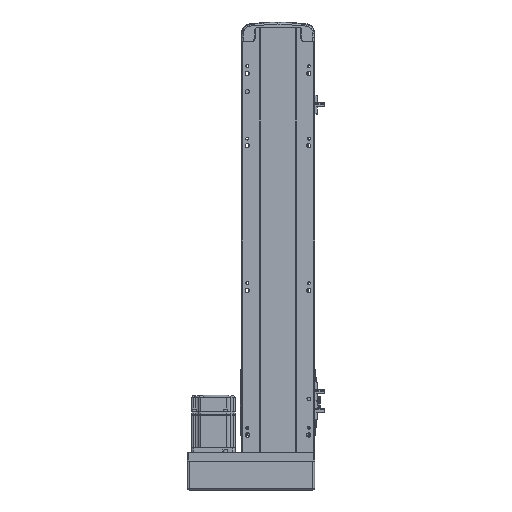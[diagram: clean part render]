
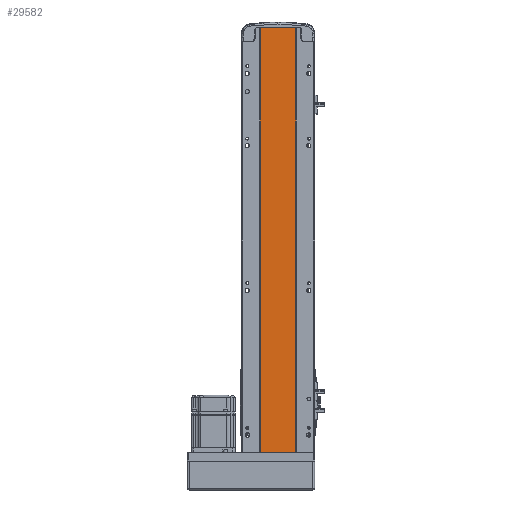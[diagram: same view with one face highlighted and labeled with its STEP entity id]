
A CAD part, front view. The second image highlights one B-rep face of the part: STEP entity #29582.
In plain terms, the highlighted planar face has unit normal (0, -1, 0).
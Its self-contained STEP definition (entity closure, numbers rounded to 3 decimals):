
#1668 = DIRECTION ( 'NONE',  ( 0., 0., -1. ) ) ;
#2954 = VECTOR ( 'NONE', #44532, 1000. ) ;
#3212 = FACE_OUTER_BOUND ( 'NONE', #15431, .T. ) ;
#4189 = CARTESIAN_POINT ( 'NONE',  ( 24.5, 2., 0. ) ) ;
#4845 = CARTESIAN_POINT ( 'NONE',  ( 24.5, 2., 587. ) ) ;
#7236 = DIRECTION ( 'NONE',  ( 0., 0., -1. ) ) ;
#7927 = ORIENTED_EDGE ( 'NONE', *, *, #57987, .T. ) ;
#9044 = VECTOR ( 'NONE', #7236, 1000. ) ;
#11682 = VECTOR ( 'NONE', #1668, 1000. ) ;
#12284 = VECTOR ( 'NONE', #45121, 1000. ) ;
#12891 = VERTEX_POINT ( 'NONE', #23062 ) ;
#13830 = VERTEX_POINT ( 'NONE', #55513 ) ;
#15077 = CARTESIAN_POINT ( 'NONE',  ( -24.5, 2., 587. ) ) ;
#15431 = EDGE_LOOP ( 'NONE', ( #35030, #28832, #58796, #7927 ) ) ;
#18899 = EDGE_CURVE ( 'NONE', #55906, #13830, #47227, .T. ) ;
#19470 = CARTESIAN_POINT ( 'NONE',  ( 0., 2., 587. ) ) ;
#19778 = EDGE_CURVE ( 'NONE', #12891, #29212, #50786, .T. ) ;
#21589 = EDGE_CURVE ( 'NONE', #13830, #29212, #23802, .T. ) ;
#23062 = CARTESIAN_POINT ( 'NONE',  ( -24.5, 2., 0. ) ) ;
#23802 = LINE ( 'NONE', #4845, #11682 ) ;
#27179 = CARTESIAN_POINT ( 'NONE',  ( -24.5, 2., 587. ) ) ;
#28832 = ORIENTED_EDGE ( 'NONE', *, *, #21589, .F. ) ;
#29212 = VERTEX_POINT ( 'NONE', #4189 ) ;
#29582 = ADVANCED_FACE ( 'NONE', ( #3212 ), #41826, .F. ) ;
#32695 = DIRECTION ( 'NONE',  ( 0., 1., 0. ) ) ;
#35030 = ORIENTED_EDGE ( 'NONE', *, *, #19778, .T. ) ;
#39699 = LINE ( 'NONE', #57334, #9044 ) ;
#41123 = AXIS2_PLACEMENT_3D ( 'NONE', #19470, #32695, #41633 ) ;
#41633 = DIRECTION ( 'NONE',  ( 0., 0., 1. ) ) ;
#41826 = PLANE ( 'NONE',  #41123 ) ;
#44328 = CARTESIAN_POINT ( 'NONE',  ( 0., 2., 0. ) ) ;
#44532 = DIRECTION ( 'NONE',  ( 1., 0., 0. ) ) ;
#45121 = DIRECTION ( 'NONE',  ( 1., 0., 0. ) ) ;
#47227 = LINE ( 'NONE', #27179, #12284 ) ;
#50786 = LINE ( 'NONE', #44328, #2954 ) ;
#55513 = CARTESIAN_POINT ( 'NONE',  ( 24.5, 2., 587. ) ) ;
#55906 = VERTEX_POINT ( 'NONE', #15077 ) ;
#57334 = CARTESIAN_POINT ( 'NONE',  ( -24.5, 2., 587. ) ) ;
#57987 = EDGE_CURVE ( 'NONE', #55906, #12891, #39699, .T. ) ;
#58796 = ORIENTED_EDGE ( 'NONE', *, *, #18899, .F. ) ;
